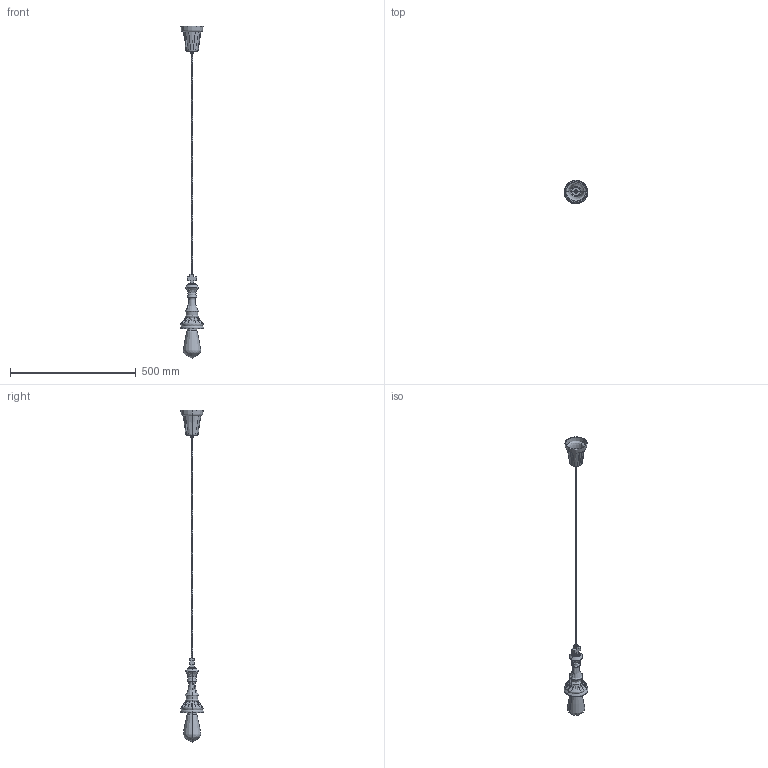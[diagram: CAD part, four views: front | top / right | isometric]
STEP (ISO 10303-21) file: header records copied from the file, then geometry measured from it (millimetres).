
FILE_DESCRIPTION(/* description */ (''),/* implementation_level */ '2;1');
FILE_NAME(/* name */ 'KINOSH~1',/* time_stamp */ '2021-12-16T10:30:05+09:00',/* author */ (''),/* organization */ (''),/* preprocessor_version */ 'ST-DEVELOPER v15',/* originating_system */ '',/* authorisation */ '');
FILE_SCHEMA (('AUTOMOTIVE_DESIGN'));
Products named in the file (1): Document
Bounding box: 94 x 94 x 1319.42 mm (x, y, z)
Volume: 609052.1 mm3; surface area: 144771.5 mm2
Topology: 8 solids, 8 shells, 1838 faces, 3873 edges, 2038 vertices
Faces by surface type: bspline 1819, plane 19
Entity records: 476415 total; most frequent: CARTESIAN_POINT 452098, ORIENTED_EDGE 7730, EDGE_CURVE 3865, B_SPLINE_CURVE_WITH_KNOTS 3659, VERTEX_POINT 2038, EDGE_LOOP 1841, ADVANCED_FACE 1838, FACE_OUTER_BOUND 1838
